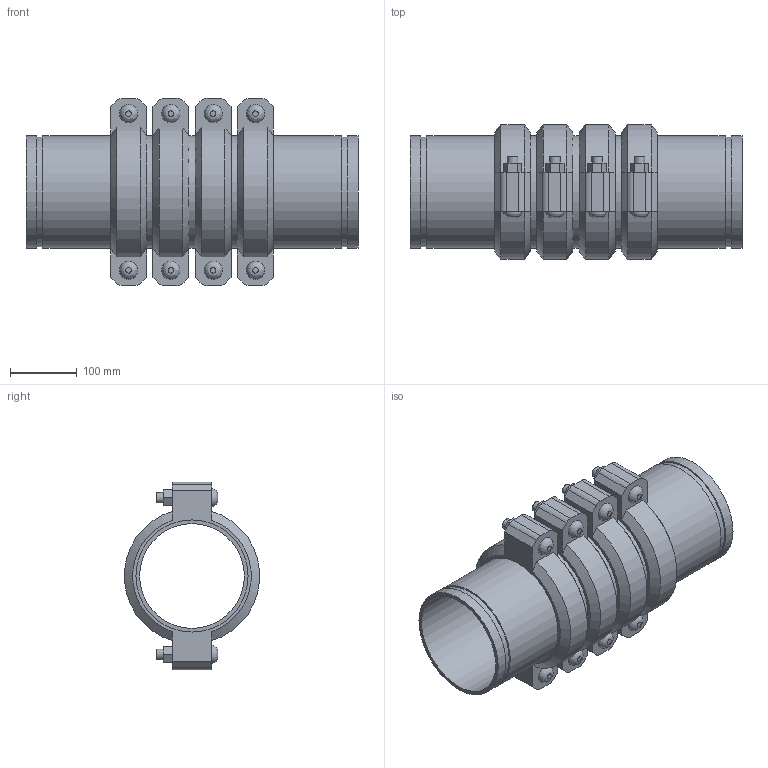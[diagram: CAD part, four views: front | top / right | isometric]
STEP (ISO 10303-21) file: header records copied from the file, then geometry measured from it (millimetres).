
FILE_DESCRIPTION(/* description */ ('VIC SS EXPANSION JOINT 4 COUPLINGS NEUTRAL STYLE 155P (OGS) (POTABLE WATER) ','CAx-IF Rec.Pracs.---Representation and Presentation of Product Manufacturing Information (PMI)---4.0---2014-10-13'),/* implementation_level */ '2;1');
FILE_NAME(/* name */ 'C:\Users\kkamble\AppData\Roaming\Autodesk\ApplicationPlugins\Victaulic.Temp\A324\Victaulic_SS_Expansion Joint_Neutral_4 Couplings_Style 155P (OGS)-Potable Water_4 Coup_Neut_6 (150).stp',/* time_stamp */ '2021-07-16T16:33:39+05:00',/* author */ ('kkamble'),/* organization */ ('Victaulic'),/* preprocessor_version */ 'ST-DEVELOPER v17.2',/* originating_system */ 'Autodesk Inventor 2019',/* authorisation */ '');
FILE_SCHEMA (('AP242_MANAGED_MODEL_BASED_3D_ENGINEERING_MIM_LF { 1 0 10303 442 1 1 4 }'));
Length unit declared in the file: inch
Products named in the file (4): 155P-06.0; Nipple-06.0; Nipple-06.0_1; 075-06.0
Assembly tree (9 placements, depth 2):
  155P-06.0
    Nipple-06.0  x2
    Nipple-06.0_1  x3
    075-06.0  x4
Bounding box: 498.09 x 202.46 x 281.18 mm (x, y, z)
Volume: 4295225.7 mm3; surface area: 999476 mm2
Topology: 9 solids, 17 shells, 288 faces, 682 edges, 480 vertices
Faces by surface type: plane 174, cylinder 90, cone 16, bspline 8
Full cylindrical faces by diameter (mm): 15.875 x16, 17.424 x8, 157.15 x5, 161.925 x4, 163.957 x10, 168.275 x23
Entity records: 2785 total; most frequent: CARTESIAN_POINT 493, DIRECTION 461, ORIENTED_EDGE 386, EDGE_CURVE 193, AXIS2_PLACEMENT_3D 184, VERTEX_POINT 138, EDGE_LOOP 107, LINE 93
